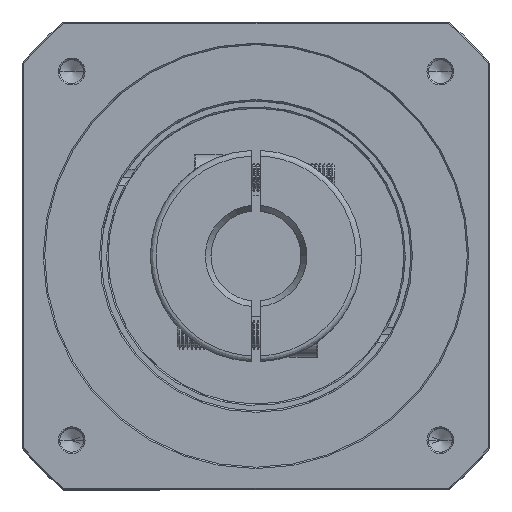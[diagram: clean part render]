
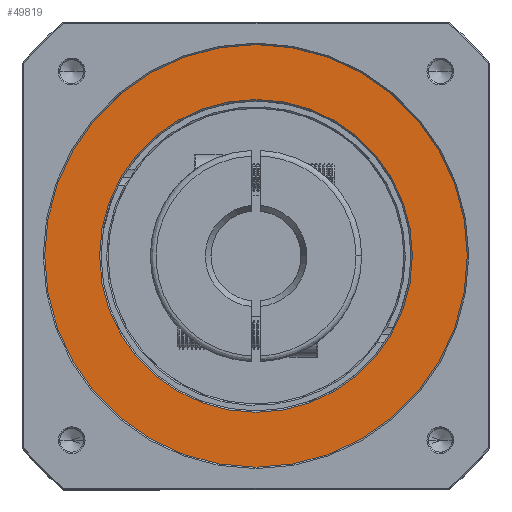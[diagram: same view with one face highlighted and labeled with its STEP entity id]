
A CAD part, top view. The second image highlights one B-rep face of the part: STEP entity #49819.
In plain terms, the highlighted planar face has unit normal (0, 0, 1).
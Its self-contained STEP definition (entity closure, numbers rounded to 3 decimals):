
#114 = DIRECTION ( 'NONE',  ( 0., 0., -1. ) ) ;
#6636 = CARTESIAN_POINT ( 'NONE',  ( 30.682, 75.741, -7.231 ) ) ;
#8973 = CIRCLE ( 'NONE', #32501, 75. ) ;
#11377 = DIRECTION ( 'NONE',  ( 1., 0., 0. ) ) ;
#13876 = CARTESIAN_POINT ( 'NONE',  ( -44.318, 75.741, -7.231 ) ) ;
#15714 = VERTEX_POINT ( 'NONE', #6636 ) ;
#20352 = CARTESIAN_POINT ( 'NONE',  ( -44.318, 75.741, -7.231 ) ) ;
#21302 = AXIS2_PLACEMENT_3D ( 'NONE', #80368, #114, #90584 ) ;
#23664 = DIRECTION ( 'NONE',  ( 1., 0., 0. ) ) ;
#28871 = FACE_BOUND ( 'NONE', #44469, .T. ) ;
#29285 = PLANE ( 'NONE',  #48110 ) ;
#30720 = VERTEX_POINT ( 'NONE', #74688 ) ;
#32501 = AXIS2_PLACEMENT_3D ( 'NONE', #126652, #77702, #35441 ) ;
#34109 = ORIENTED_EDGE ( 'NONE', *, *, #41677, .T. ) ;
#35129 = AXIS2_PLACEMENT_3D ( 'NONE', #13876, #45477, #23664 ) ;
#35441 = DIRECTION ( 'NONE',  ( 1., 0., 0. ) ) ;
#40919 = CARTESIAN_POINT ( 'NONE',  ( 11.182, 75.741, -7.231 ) ) ;
#41677 = EDGE_CURVE ( 'NONE', #98275, #15714, #8973, .T. ) ;
#44469 = EDGE_LOOP ( 'NONE', ( #128739, #53317 ) ) ;
#44755 = CARTESIAN_POINT ( 'NONE',  ( -119.318, 75.741, -7.231 ) ) ;
#45477 = DIRECTION ( 'NONE',  ( 0., 0., 1. ) ) ;
#47514 = CIRCLE ( 'NONE', #96597, 55.5 ) ;
#48110 = AXIS2_PLACEMENT_3D ( 'NONE', #101763, #102227, #11377 ) ;
#49096 = ORIENTED_EDGE ( 'NONE', *, *, #73248, .T. ) ;
#49819 = ADVANCED_FACE ( 'NONE', ( #28871, #62317 ), #29285, .T. ) ;
#53317 = ORIENTED_EDGE ( 'NONE', *, *, #59436, .T. ) ;
#59436 = EDGE_CURVE ( 'NONE', #30720, #64420, #82657, .T. ) ;
#61369 = DIRECTION ( 'NONE',  ( 1., 0., 0. ) ) ;
#62209 = DIRECTION ( 'NONE',  ( 0., 0., -1. ) ) ;
#62317 = FACE_OUTER_BOUND ( 'NONE', #82190, .T. ) ;
#64420 = VERTEX_POINT ( 'NONE', #40919 ) ;
#73248 = EDGE_CURVE ( 'NONE', #15714, #98275, #85350, .T. ) ;
#74688 = CARTESIAN_POINT ( 'NONE',  ( -99.818, 75.741, -7.231 ) ) ;
#77702 = DIRECTION ( 'NONE',  ( 0., 0., 1. ) ) ;
#80368 = CARTESIAN_POINT ( 'NONE',  ( -44.318, 75.741, -7.231 ) ) ;
#82190 = EDGE_LOOP ( 'NONE', ( #49096, #34109 ) ) ;
#82657 = CIRCLE ( 'NONE', #21302, 55.5 ) ;
#85350 = CIRCLE ( 'NONE', #35129, 75. ) ;
#90584 = DIRECTION ( 'NONE',  ( 1., 0., 0. ) ) ;
#96597 = AXIS2_PLACEMENT_3D ( 'NONE', #20352, #62209, #61369 ) ;
#98275 = VERTEX_POINT ( 'NONE', #44755 ) ;
#101763 = CARTESIAN_POINT ( 'NONE',  ( -44.318, 75.741, -7.231 ) ) ;
#102227 = DIRECTION ( 'NONE',  ( 0., 0., 1. ) ) ;
#112279 = EDGE_CURVE ( 'NONE', #64420, #30720, #47514, .T. ) ;
#126652 = CARTESIAN_POINT ( 'NONE',  ( -44.318, 75.741, -7.231 ) ) ;
#128739 = ORIENTED_EDGE ( 'NONE', *, *, #112279, .T. ) ;
